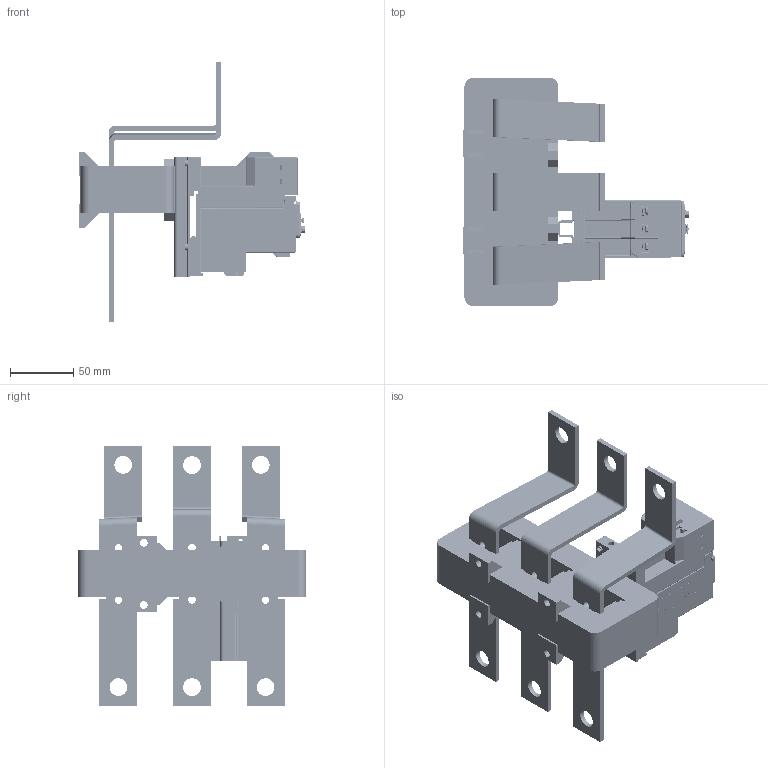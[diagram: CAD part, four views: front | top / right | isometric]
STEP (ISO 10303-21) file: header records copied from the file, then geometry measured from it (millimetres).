
FILE_DESCRIPTION(/* description */ (''),/* implementation_level */ '2;1');
FILE_NAME(/* name */ 'HGT500AF.stp',/* time_stamp */ '2017-12-06T11:49:40+09:00',/* author */ (''),/* organization */ (''),/* preprocessor_version */ 'ST-DEVELOPER v15',/* originating_system */ 'SIEMENS PLM Software NX 9.0',/* authorisation */ '');
FILE_SCHEMA (('CONFIG_CONTROL_DESIGN'));
Products named in the file (1): HGT500AF
Bounding box: 178.85 x 180 x 205.17 mm (x, y, z)
Volume: 693986.9 mm3; surface area: 263977.5 mm2
Topology: 54 solids, 65 shells, 9079 faces, 24694 edges, 15869 vertices
Faces by surface type: plane 5994, cylinder 2158, bspline 398, torus 197, sphere 125, cone 105, extrusion 102
Full cylindrical faces by diameter (mm): 1.8 x4, 2 x1, 2.1 x1, 3 x14, 3.6 x2, 4 x7, 5 x12, 5.5 x2, 5.6 x1, 5.7 x1, 6 x10, 6.2 x1, 6.5 x1, 6.7 x5, 6.8 x4, 7 x1, 8 x7, 12 x1, 14 x6
Entity records: 323338 total; most frequent: CARTESIAN_POINT 96060, ORIENTED_EDGE 48944, DIRECTION 44790, EDGE_CURVE 24472, VECTOR 17818, LINE 17716, VERTEX_POINT 15829, AXIS2_PLACEMENT_3D 13486
